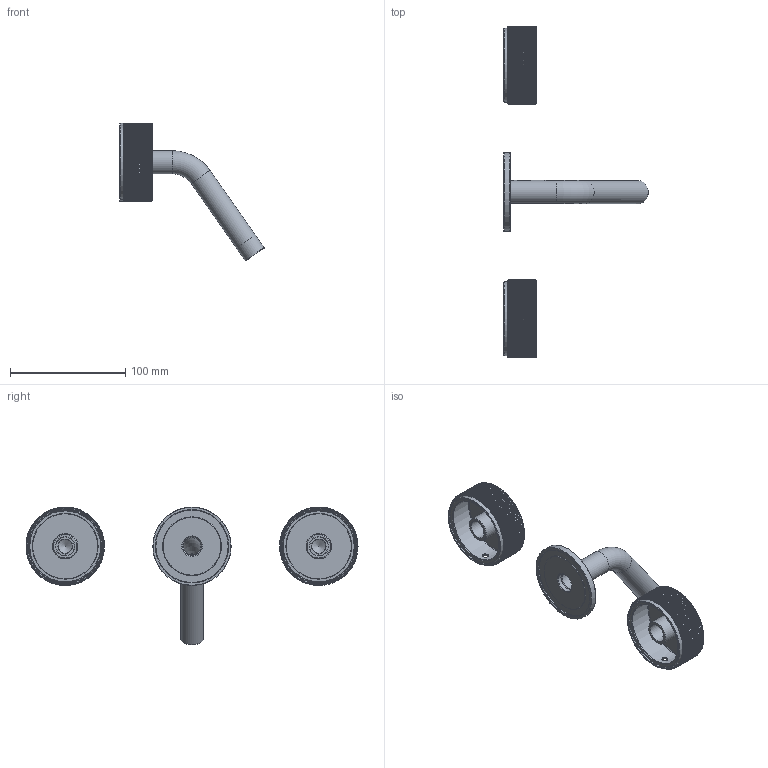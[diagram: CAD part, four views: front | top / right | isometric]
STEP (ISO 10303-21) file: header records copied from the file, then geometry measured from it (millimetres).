
FILE_DESCRIPTION(/* description */ ('Unknown'),/* implementation_level */ '2;1');
FILE_NAME(/* name */ 'RE012',/* time_stamp */ '2023-07-07T17:32:54+02:00',/* author */ ('Unknown'),/* organization */ ('Unknown'),/* preprocessor_version */ 'ST-DEVELOPER v18.102',/* originating_system */ 'Solid Edge',/* authorisation */ 'Unknown');
FILE_SCHEMA (('MODEL_BASED_INTEGRATED_MANUFACTURING_SCHEMA','AUTOMOTIVE_DESIGN {1 0 10303 214 3 1 1}'));
Length unit declared in the file: millimetre
Products named in the file (17): RE012; RE012EXT_oa_0; RE013_oa_1; RE013-03; RE013-01; GRP-4x3; 44.3256.450; 44.3256.450-1; 44.3256.450-2; 44.3256.450-3; 44.3256.450-4; RE010EXT_oa_2; RE002-06; RE005-01; RE010-12_oa_3; RE010EXT_oa_4; RE010-12_oa_5
Assembly tree (20 placements, depth 5):
  RE012
    RE012EXT_oa_0
      RE013_oa_1
        RE013-03
        RE013-01
        GRP-4x3
        44.3256.450
          44.3256.450-1
          44.3256.450-2
          44.3256.450-3
          44.3256.450-4
      RE010EXT_oa_2
        RE002-06
        RE005-01
        GRP-4x3
        RE010-12_oa_3
      RE010EXT_oa_4
        RE002-06
        RE005-01
        GRP-4x3
        RE010-12_oa_5
Bounding box: 125.18 x 288 x 119.58 mm (x, y, z)
Volume: 74016.7 mm3; surface area: 76070.4 mm2
Topology: 13 solids, 13 shells, 2164 faces, 4825 edges, 2716 vertices
Faces by surface type: plane 909, cone 798, cylinder 419, torus 19, bspline 19
Full cylindrical faces by diameter (mm): 3.242 x3, 5 x2, 11.027 x2, 12 x2, 12.159 x1, 12.196 x1, 12.45 x1, 13.464 x1, 14.577 x1, 15 x2, 15.033 x1, 15.218 x1, 15.229 x1, 15.417 x2, 16 x1, 16.2 x2, 16.3 x1, 16.5 x2, 16.75 x1, 16.917 x1, 18 x1, 20 x2, 21 x2, 56.5 x2, 61.5 x4, 62.7 x1, 64 x2, 65 x2, 68 x1
Entity records: 40832 total; most frequent: CARTESIAN_POINT 8039, DIRECTION 5051, ORIENTED_EDGE 5050, EDGE_CURVE 2525, AXIS2_PLACEMENT_3D 2121, VERTEX_POINT 1488, FACE_BOUND 1317, EDGE_LOOP 1313
